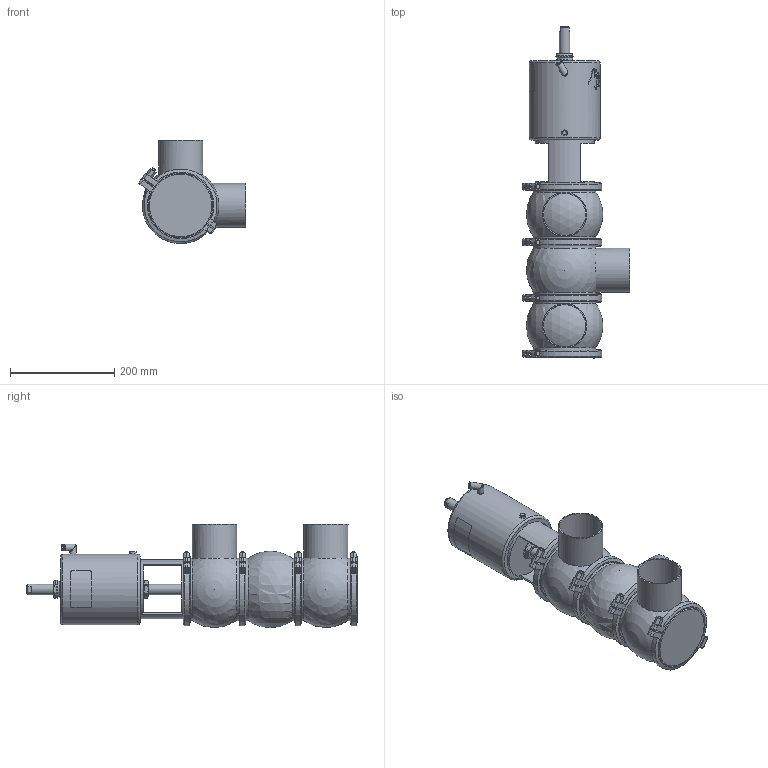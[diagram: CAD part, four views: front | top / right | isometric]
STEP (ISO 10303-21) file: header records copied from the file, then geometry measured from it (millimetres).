
FILE_DESCRIPTION (( 'STEP AP214' ), '1' );
FILE_NAME ('INNOVA L J W DIN 080 T3 AS NC_10.241.16.0013.STEP', '2024-08-07T07:49:23', ( '' ), ( '' ), 'SwSTEP 2.0', 'SolidWorks 2023', '' );
FILE_SCHEMA (( 'AUTOMOTIVE_DESIGN' ));
Length unit declared in the file: millimetre
Products named in the file (6): 10.240.15.0001_DN 080; 10.240.15.0006_DIN 080; 10.240.15.0014_T3 AS P180; INNOVA L J W DIN 080 T3 AS NC_10.241.16.0013; 10.241.15.0001_DIN 080; 10.240.15.0010_DN 080
Assembly tree (10 placements, depth 2):
  INNOVA L J W DIN 080 T3 AS NC_10.241.16.0013
    10.240.15.0006_DIN 080  x3
    10.240.15.0010_DN 080
    10.240.15.0014_T3 AS P180
    10.240.15.0001_DN 080  x4
    10.241.15.0001_DIN 080
Bounding box: 206.43 x 637.63 x 198.5 mm (x, y, z)
Volume: 7450604.3 mm3; surface area: 634753.4 mm2
Topology: 11 solids, 11 shells, 532 faces, 1418 edges, 923 vertices
Faces by surface type: plane 260, cylinder 136, bspline 80, cone 46, sphere 6, torus 4
Full cylindrical faces by diameter (mm): 6.15 x1, 8 x9, 8.5 x1, 10.5 x1, 12.5 x3, 16 x1, 20 x2, 31 x1, 34.5 x2, 36.5 x1, 81 x3, 85 x3, 113 x1, 120 x7, 132 x8, 136 x1
Entity records: 20421 total; most frequent: CARTESIAN_POINT 11286, ORIENTED_EDGE 1598, DIRECTION 1211, EDGE_CURVE 799, VERTEX_POINT 548, AXIS2_PLACEMENT_3D 461, EDGE_LOOP 397, FACE_OUTER_BOUND 359
